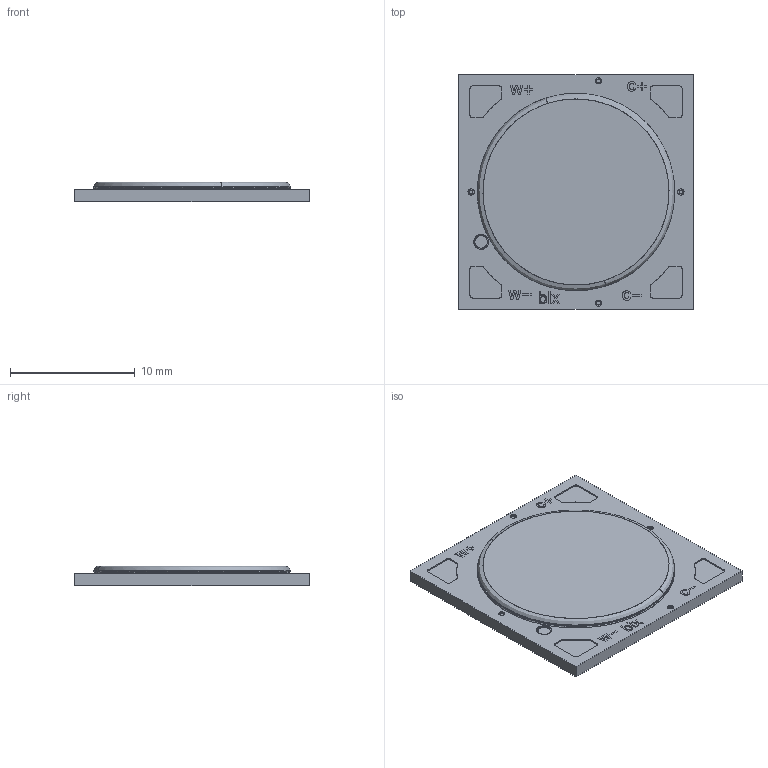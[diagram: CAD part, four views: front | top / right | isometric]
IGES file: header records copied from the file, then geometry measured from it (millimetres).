
Start section: SolidWorks IGES file using analytic representation for surfaces
Global section: file name: D:\Users\5160206\Desktop\3D document\NTW GEN3\NTW13-G3\NTW13-G3 Assembly.IGS; native system: SolidWorks 2018; preprocessor: SolidWorks 2018; author: 5160206; date: 241227.131926; units: millimetre
Bounding box: 18.8 x 18.8 x 1.6 mm (x, y, z)
Surface area: 808.2 mm2 (no closed solid volume)
Topology: 0 solids, 0 shells, 297 faces, 2094 edges, 2094 vertices
Faces by surface type: bspline 253, revolution 44
